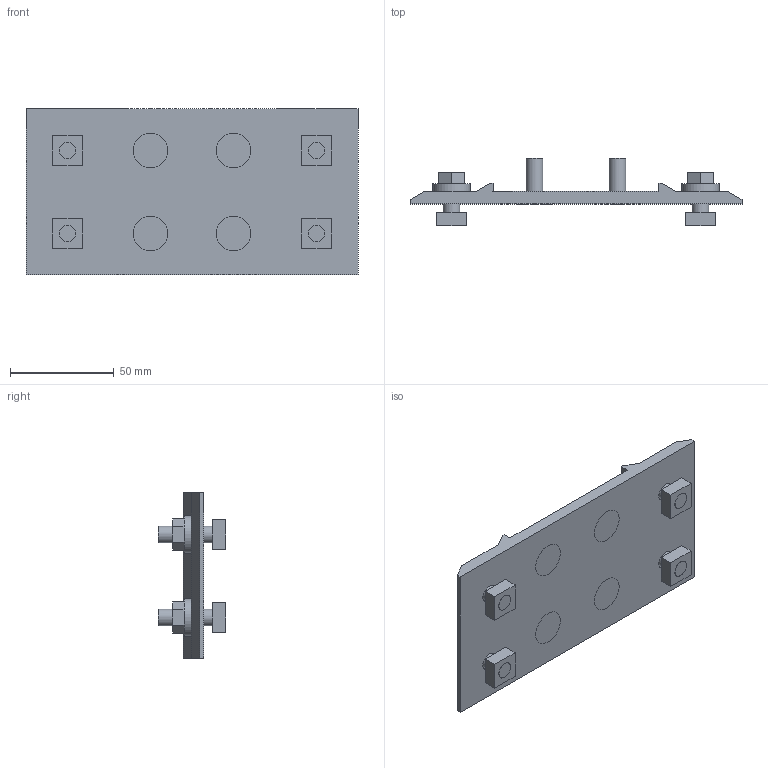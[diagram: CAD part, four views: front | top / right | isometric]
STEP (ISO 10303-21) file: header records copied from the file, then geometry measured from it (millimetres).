
FILE_DESCRIPTION((''),'2;1');
FILE_NAME('C:\Documents and Settings\古川典政\My Documents\Inventor\HP用\MasterData\BRACKET\M8\ABJF-8080-8.stp','2008-07-31T10:50:47',(''),(''),'Autodesk Inventor 2008','Autodesk Inventor 2008','');
FILE_SCHEMA(('CONFIG_CONTROL_DESIGN'));
Length unit declared in the file: millimetre
Products named in the file (14): ABJF-8080-8; ABJF-8080-81; ABJF-8080-82; ABJF-8080-83; ABJF-8080-84; ABJF-8080-85; ABJF-8080-86; ABJF-8080-87; ABJF-8080-88; ABJF-8080-89; ABJF-8080-810; ABJF-8080-811; ABJF-8080-812; ABJF-8080-813
Assembly tree (13 placements, depth 2):
  ABJF-8080-8
    ABJF-8080-81
    ABJF-8080-82
    ABJF-8080-83
    ABJF-8080-84
    ABJF-8080-85
    ABJF-8080-86
    ABJF-8080-87
    ABJF-8080-88
    ABJF-8080-89
    ABJF-8080-810
    ABJF-8080-811
    ABJF-8080-812
    ABJF-8080-813
Bounding box: 160 x 32.5 x 80 mm (x, y, z)
Volume: 92930.5 mm3; surface area: 42329.1 mm2
Topology: 13 solids, 13 shells, 128 faces, 278 edges, 188 vertices
Faces by surface type: plane 92, cylinder 20, bspline 10, cone 6
Full cylindrical faces by diameter (mm): 8 x8, 8.4 x4, 9 x4, 18 x4
Entity records: 3735 total; most frequent: CARTESIAN_POINT 723, DIRECTION 580, ORIENTED_EDGE 452, EDGE_CURVE 226, AXIS2_PLACEMENT_3D 209, EDGE_LOOP 200, VERTEX_POINT 172, VECTOR 162
